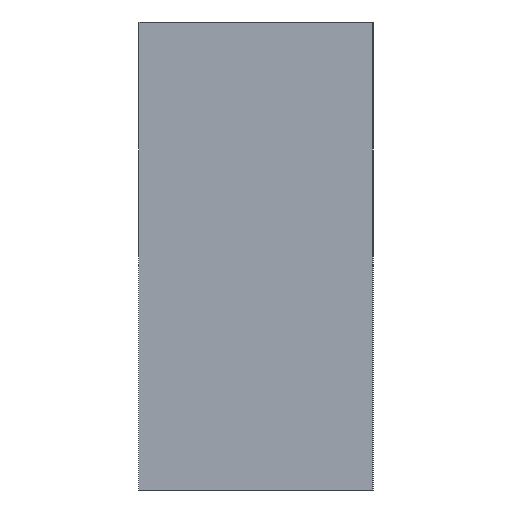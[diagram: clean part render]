
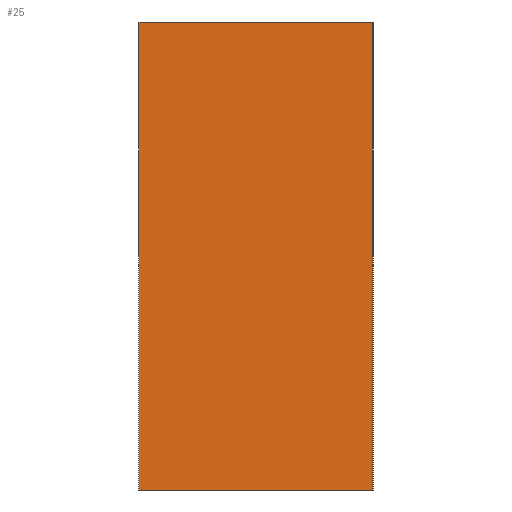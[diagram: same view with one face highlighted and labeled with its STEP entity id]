
A CAD part, left-side view. The second image highlights one B-rep face of the part: STEP entity #25.
In plain terms, the highlighted planar face has unit normal (-1, 0, 0).
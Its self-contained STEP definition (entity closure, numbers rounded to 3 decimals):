
#25=ADVANCED_FACE('',(#31),#183,.T.);
#31=FACE_OUTER_BOUND('',#37,.T.);
#37=EDGE_LOOP('',(#46,#47,#48,#49));
#46=ORIENTED_EDGE('',*,*,#126,.F.);
#47=ORIENTED_EDGE('',*,*,#130,.T.);
#48=ORIENTED_EDGE('',*,*,#131,.T.);
#49=ORIENTED_EDGE('',*,*,#132,.T.);
#66=PCURVE('',#182,#90);
#70=PCURVE('',#183,#94);
#71=PCURVE('',#183,#95);
#72=PCURVE('',#183,#96);
#73=PCURVE('',#183,#97);
#77=PCURVE('',#184,#101);
#79=PCURVE('',#185,#103);
#88=PCURVE('',#187,#112);
#90=DEFINITIONAL_REPRESENTATION('',(#139),#313);
#94=DEFINITIONAL_REPRESENTATION('',(#146),#313);
#95=DEFINITIONAL_REPRESENTATION('',(#148),#313);
#96=DEFINITIONAL_REPRESENTATION('',(#150),#313);
#97=DEFINITIONAL_REPRESENTATION('',(#152),#313);
#101=DEFINITIONAL_REPRESENTATION('',(#159),#313);
#103=DEFINITIONAL_REPRESENTATION('',(#161),#313);
#112=DEFINITIONAL_REPRESENTATION('',(#172),#313);
#114=SURFACE_CURVE('',#138,(#66,#70),.PCURVE_S1.);
#118=SURFACE_CURVE('',#147,(#71,#88),.PCURVE_S1.);
#119=SURFACE_CURVE('',#149,(#72,#77),.PCURVE_S1.);
#120=SURFACE_CURVE('',#151,(#73,#79),.PCURVE_S1.);
#126=EDGE_CURVE('',#174,#176,#114,.T.);
#130=EDGE_CURVE('',#174,#175,#118,.T.);
#131=EDGE_CURVE('',#175,#179,#119,.T.);
#132=EDGE_CURVE('',#179,#176,#120,.T.);
#138=B_SPLINE_CURVE_WITH_KNOTS('',1,(#240,#241),.UNSPECIFIED.,.F.,.F.,(2,
2),(-3280.,-3240.),.UNSPECIFIED.);
#139=B_SPLINE_CURVE_WITH_KNOTS('',1,(#242,#243),.UNSPECIFIED.,.F.,.F.,(2,
2),(-3280.,-3240.),.UNSPECIFIED.);
#146=B_SPLINE_CURVE_WITH_KNOTS('',1,(#256,#257),.UNSPECIFIED.,.F.,.F.,(2,
2),(-3280.,-3240.),.UNSPECIFIED.);
#147=B_SPLINE_CURVE_WITH_KNOTS('',1,(#258,#259),.UNSPECIFIED.,.F.,.F.,(2,
2),(0.,80.),.UNSPECIFIED.);
#148=B_SPLINE_CURVE_WITH_KNOTS('',1,(#260,#261),.UNSPECIFIED.,.F.,.F.,(2,
2),(0.,80.),.UNSPECIFIED.);
#149=B_SPLINE_CURVE_WITH_KNOTS('',1,(#262,#263),.UNSPECIFIED.,.F.,.F.,(2,
2),(-3280.,-3240.),.UNSPECIFIED.);
#150=B_SPLINE_CURVE_WITH_KNOTS('',1,(#264,#265),.UNSPECIFIED.,.F.,.F.,(2,
2),(-3280.,-3240.),.UNSPECIFIED.);
#151=B_SPLINE_CURVE_WITH_KNOTS('',1,(#266,#267),.UNSPECIFIED.,.F.,.F.,(2,
2),(-80.,0.),.UNSPECIFIED.);
#152=B_SPLINE_CURVE_WITH_KNOTS('',1,(#268,#269),.UNSPECIFIED.,.F.,.F.,(2,
2),(-80.,0.),.UNSPECIFIED.);
#159=B_SPLINE_CURVE_WITH_KNOTS('',1,(#282,#283),.UNSPECIFIED.,.F.,.F.,(2,
2),(-3280.,-3240.),.UNSPECIFIED.);
#161=B_SPLINE_CURVE_WITH_KNOTS('',1,(#286,#287),.UNSPECIFIED.,.F.,.F.,(2,
2),(-80.,0.),.UNSPECIFIED.);
#172=B_SPLINE_CURVE_WITH_KNOTS('',1,(#308,#309),.UNSPECIFIED.,.F.,.F.,(2,
2),(0.,80.),.UNSPECIFIED.);
#174=VERTEX_POINT('',#232);
#175=VERTEX_POINT('',#233);
#176=VERTEX_POINT('',#234);
#179=VERTEX_POINT('',#237);
#182=PLANE('',#208);
#183=PLANE('',#209);
#184=PLANE('',#210);
#185=PLANE('',#211);
#187=PLANE('',#213);
#208=AXIS2_PLACEMENT_3D('',#226,#217,$);
#209=AXIS2_PLACEMENT_3D('',#227,#218,$);
#210=AXIS2_PLACEMENT_3D('',#228,#219,$);
#211=AXIS2_PLACEMENT_3D('',#229,#220,$);
#213=AXIS2_PLACEMENT_3D('',#231,#222,$);
#217=DIRECTION('',(0.,0.,-1.));
#218=DIRECTION('',(-1.,0.,0.));
#219=DIRECTION('',(0.,0.,1.));
#220=DIRECTION('',(0.,1.,0.));
#222=DIRECTION('',(0.,-1.,0.));
#226=CARTESIAN_POINT('',(-782.,-585.,140.));
#227=CARTESIAN_POINT('',(-782.,-585.,140.));
#228=CARTESIAN_POINT('',(-782.,-585.,180.));
#229=CARTESIAN_POINT('',(-782.,-565.,140.));
#231=CARTESIAN_POINT('',(782.,-585.,140.));
#232=CARTESIAN_POINT('',(-782.,-585.,140.));
#233=CARTESIAN_POINT('',(-782.,-585.,180.));
#234=CARTESIAN_POINT('',(-782.,-565.,140.));
#237=CARTESIAN_POINT('',(-782.,-565.,180.));
#240=CARTESIAN_POINT('',(-782.,-585.,140.));
#241=CARTESIAN_POINT('',(-782.,-565.,140.));
#242=CARTESIAN_POINT('',(0.,0.));
#243=CARTESIAN_POINT('',(40.,0.));
#256=CARTESIAN_POINT('',(0.,-3280.));
#257=CARTESIAN_POINT('',(0.,-3240.));
#258=CARTESIAN_POINT('',(-782.,-585.,140.));
#259=CARTESIAN_POINT('',(-782.,-585.,180.));
#260=CARTESIAN_POINT('',(0.,-3280.));
#261=CARTESIAN_POINT('',(80.,-3280.));
#262=CARTESIAN_POINT('',(-782.,-585.,180.));
#263=CARTESIAN_POINT('',(-782.,-565.,180.));
#264=CARTESIAN_POINT('',(80.,-3280.));
#265=CARTESIAN_POINT('',(80.,-3240.));
#266=CARTESIAN_POINT('',(-782.,-565.,180.));
#267=CARTESIAN_POINT('',(-782.,-565.,140.));
#268=CARTESIAN_POINT('',(80.,-3240.));
#269=CARTESIAN_POINT('',(0.,-3240.));
#282=CARTESIAN_POINT('',(0.,0.));
#283=CARTESIAN_POINT('',(0.,40.));
#286=CARTESIAN_POINT('',(80.,-3240.));
#287=CARTESIAN_POINT('',(0.,-3240.));
#308=CARTESIAN_POINT('',(0.,0.));
#309=CARTESIAN_POINT('',(80.,0.));
#313=(
GEOMETRIC_REPRESENTATION_CONTEXT(2)
PARAMETRIC_REPRESENTATION_CONTEXT()
REPRESENTATION_CONTEXT('pspace','')
);
